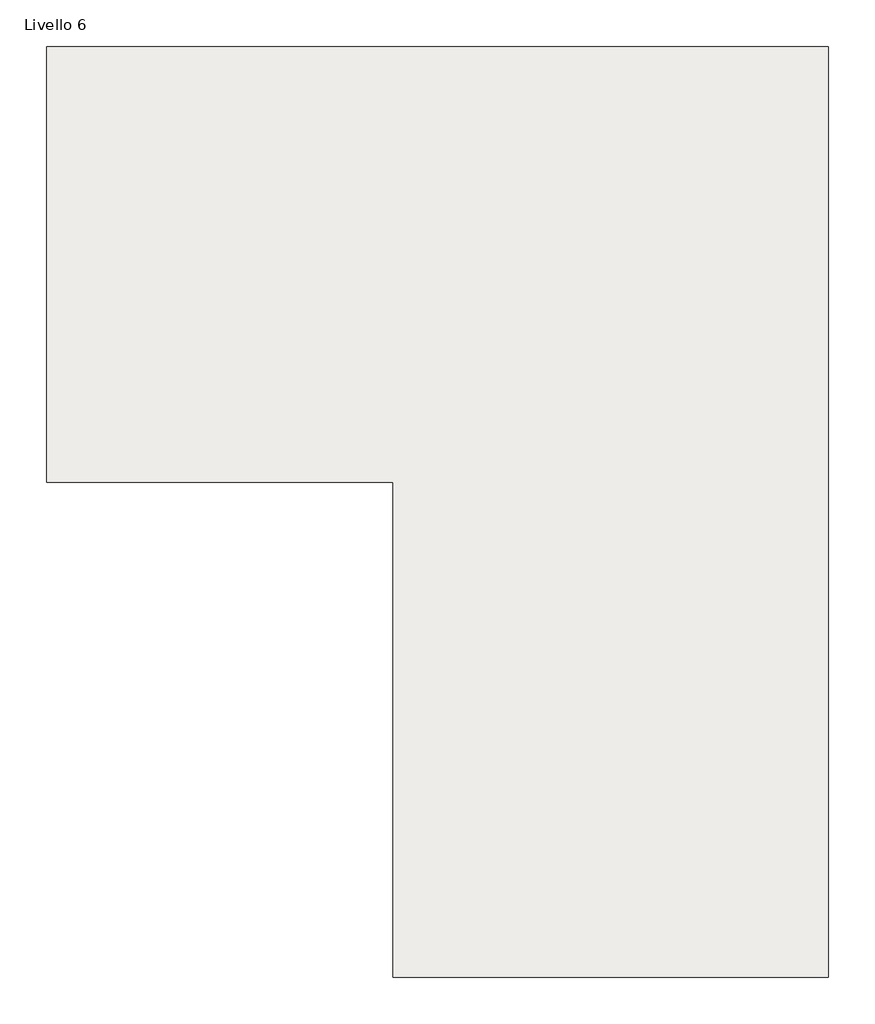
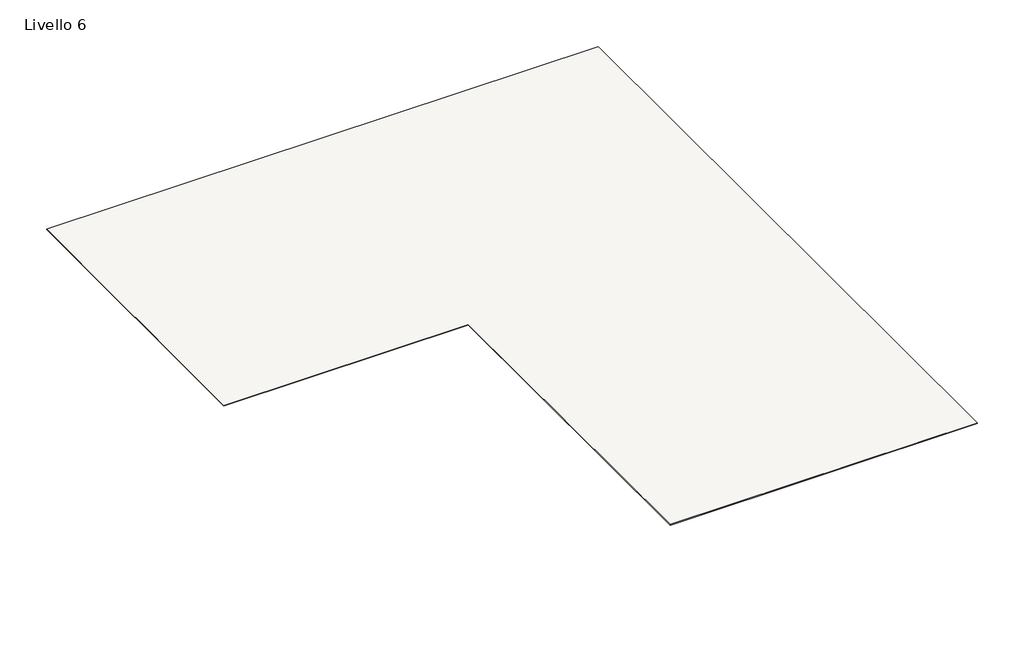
# One storey: 1 slab.
"""IFC4 building model written with IfcOpenShell, lengths in millimetres."""

from ifc_helpers import new_model, si_unit, frame, origin, place, context, project, spatial, polyline, outline, extrude, element, save

model = new_model("IFC4")

# Units and contexts
model_context = context("Model", 3, world=origin())
ifc_project = project(units=[si_unit("LENGTHUNIT", "METRE", prefix="MILLI")], contexts=[model_context])

# Site, building, storey
site = spatial("IfcSite", under=ifc_project)
building = spatial("IfcBuilding", under=site)
storey = spatial("IfcBuildingStorey", under=building, Name="Livello 6", Elevation=-2479.0)

# Slab
placement = place(None, origin())
element("IfcSlab", 1, ObjectType="BI MORTAR LEVELLING SEAL VOLTECO", at=placement, inside=storey, context=model_context, shape_type="SweptSolid", body=[
    extrude(outline(polyline([(10272.1031791, 9028.648913), (10272.1031791, -9771.351087), (1472.1031791, -9771.351087), (1472.1031791, 228.648913), (-5527.8968209, 228.648913), (-5527.8968209, 9028.648913), (10272.1031791, 9028.648913)])), frame((0.0, 0.0, -2479.0), z_axis=(0.0, 0.0, 1.0), x_axis=(1.0, 0.0, 0.0)), (0.0, 0.0, 1.0), 20.0),
])

save(model, "model.ifc")
